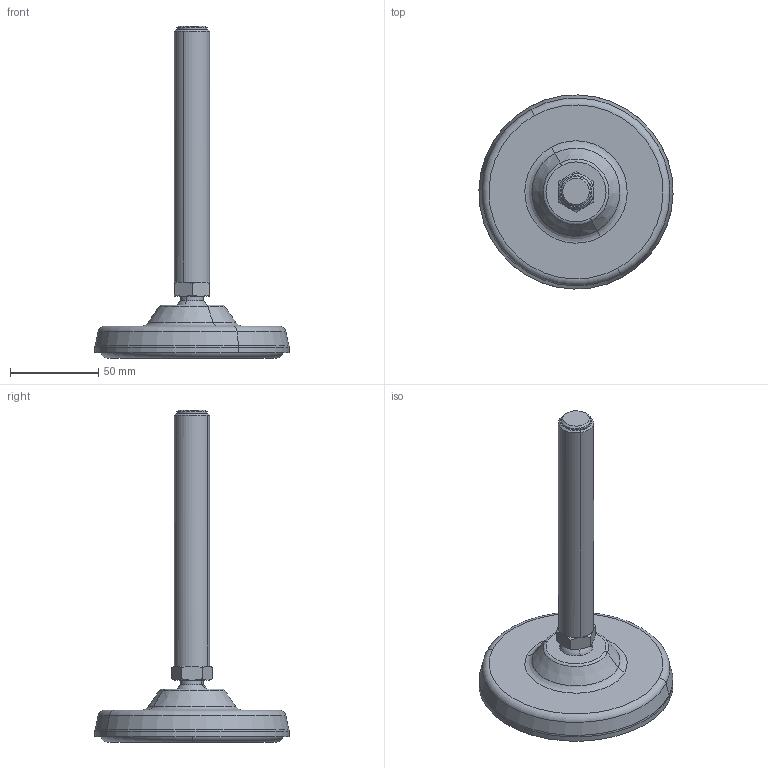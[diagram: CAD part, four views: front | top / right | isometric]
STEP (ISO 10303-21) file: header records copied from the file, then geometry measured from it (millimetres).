
FILE_DESCRIPTION(('CATIA V5 STEP Exchange'),'2;1');
FILE_NAME('X:\CODICI MOVEX\3D per clienti\3D definitivi\Part 900\P94452ZH_01.stp','2016-08-04T07:38:41+00:00',('none'),('none'),'Version 5-6 Release 2012','CATIA V5 STEP AP203','none');
FILE_SCHEMA(('CONFIG_CONTROL_DESIGN'));
Products named in the file (1): P94452ZH_01
Assembly tree (3 placements, depth 2):
  P94452ZH_01
    #58
    #36832
    #51398
Bounding box: 109.97 x 109.97 x 188 mm (x, y, z)
Volume: 165489.6 mm3; surface area: 70631 mm2
Topology: 3 solids, 3 shells, 1447 faces, 3952 edges, 2527 vertices
Faces by surface type: plane 955, bspline 170, torus 128, cylinder 122, cone 48, sphere 24
Entity records: 52539 total; most frequent: CARTESIAN_POINT 19565, ORIENTED_EDGE 7880, DIRECTION 5014, EDGE_CURVE 3940, VERTEX_POINT 2527, VECTOR 2328, LINE 2328, AXIS2_PLACEMENT_3D 1611
